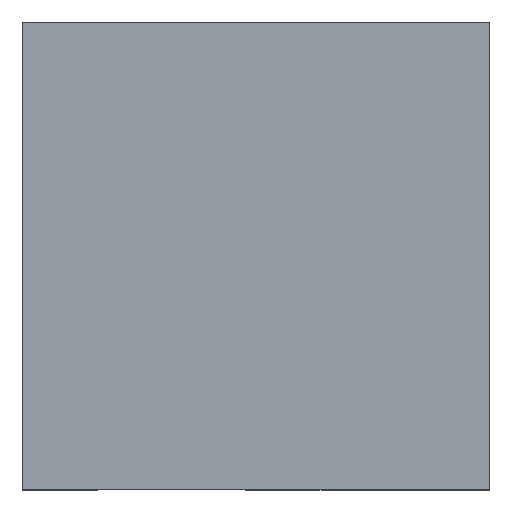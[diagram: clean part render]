
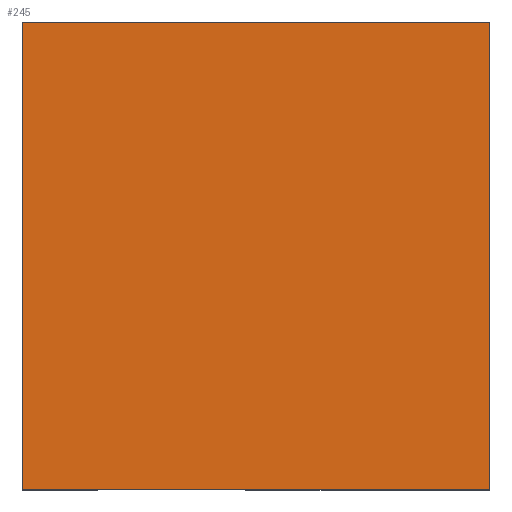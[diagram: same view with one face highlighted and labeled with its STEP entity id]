
A CAD part, top view. The second image highlights one B-rep face of the part: STEP entity #245.
In plain terms, the highlighted planar face has unit normal (0, 0, 1).
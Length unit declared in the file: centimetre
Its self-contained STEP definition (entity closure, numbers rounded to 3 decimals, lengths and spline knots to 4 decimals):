
#5 = VECTOR ( 'NONE', #69, 100. ) ;
#34 = LINE ( 'NONE', #467, #364 ) ;
#41 = CARTESIAN_POINT ( 'NONE',  ( 1000., 1000., 1000. ) ) ;
#56 = EDGE_CURVE ( 'NONE', #352, #180, #470, .T. ) ;
#66 = CARTESIAN_POINT ( 'NONE',  ( 0., 1000., 1000. ) ) ;
#69 = DIRECTION ( 'NONE',  ( 0., -1., 0. ) ) ;
#81 = DIRECTION ( 'NONE',  ( 0., 0., 1. ) ) ;
#85 = LINE ( 'NONE', #411, #427 ) ;
#106 = ORIENTED_EDGE ( 'NONE', *, *, #169, .T. ) ;
#169 = EDGE_CURVE ( 'NONE', #460, #352, #85, .T. ) ;
#180 = VERTEX_POINT ( 'NONE', #380 ) ;
#186 = VERTEX_POINT ( 'NONE', #418 ) ;
#205 = FACE_OUTER_BOUND ( 'NONE', #387, .T. ) ;
#228 = DIRECTION ( 'NONE',  ( 1., 0., 0. ) ) ;
#242 = CARTESIAN_POINT ( 'NONE',  ( 1000., 0., 1000. ) ) ;
#245 = ADVANCED_FACE ( 'NONE', ( #205 ), #444, .T. ) ;
#263 = DIRECTION ( 'NONE',  ( -1., 0., 0. ) ) ;
#282 = ORIENTED_EDGE ( 'NONE', *, *, #358, .T. ) ;
#287 = ORIENTED_EDGE ( 'NONE', *, *, #56, .T. ) ;
#293 = DIRECTION ( 'NONE',  ( 1., 0., 0. ) ) ;
#313 = DIRECTION ( 'NONE',  ( 0., 1., 0. ) ) ;
#325 = LINE ( 'NONE', #66, #5 ) ;
#352 = VERTEX_POINT ( 'NONE', #41 ) ;
#358 = EDGE_CURVE ( 'NONE', #180, #186, #325, .T. ) ;
#364 = VECTOR ( 'NONE', #293, 100. ) ;
#380 = CARTESIAN_POINT ( 'NONE',  ( 0., 1000., 1000. ) ) ;
#383 = VECTOR ( 'NONE', #263, 100. ) ;
#384 = AXIS2_PLACEMENT_3D ( 'NONE', #408, #81, #228 ) ;
#387 = EDGE_LOOP ( 'NONE', ( #282, #441, #106, #287 ) ) ;
#396 = EDGE_CURVE ( 'NONE', #186, #460, #34, .T. ) ;
#400 = CARTESIAN_POINT ( 'NONE',  ( 0., 1000., 1000. ) ) ;
#408 = CARTESIAN_POINT ( 'NONE',  ( 0., 0., 1000. ) ) ;
#411 = CARTESIAN_POINT ( 'NONE',  ( 1000., 1000., 1000. ) ) ;
#418 = CARTESIAN_POINT ( 'NONE',  ( 0., 0., 1000. ) ) ;
#427 = VECTOR ( 'NONE', #313, 100. ) ;
#441 = ORIENTED_EDGE ( 'NONE', *, *, #396, .T. ) ;
#444 = PLANE ( 'NONE',  #384 ) ;
#460 = VERTEX_POINT ( 'NONE', #242 ) ;
#467 = CARTESIAN_POINT ( 'NONE',  ( 0., 0., 1000. ) ) ;
#470 = LINE ( 'NONE', #400, #383 ) ;
